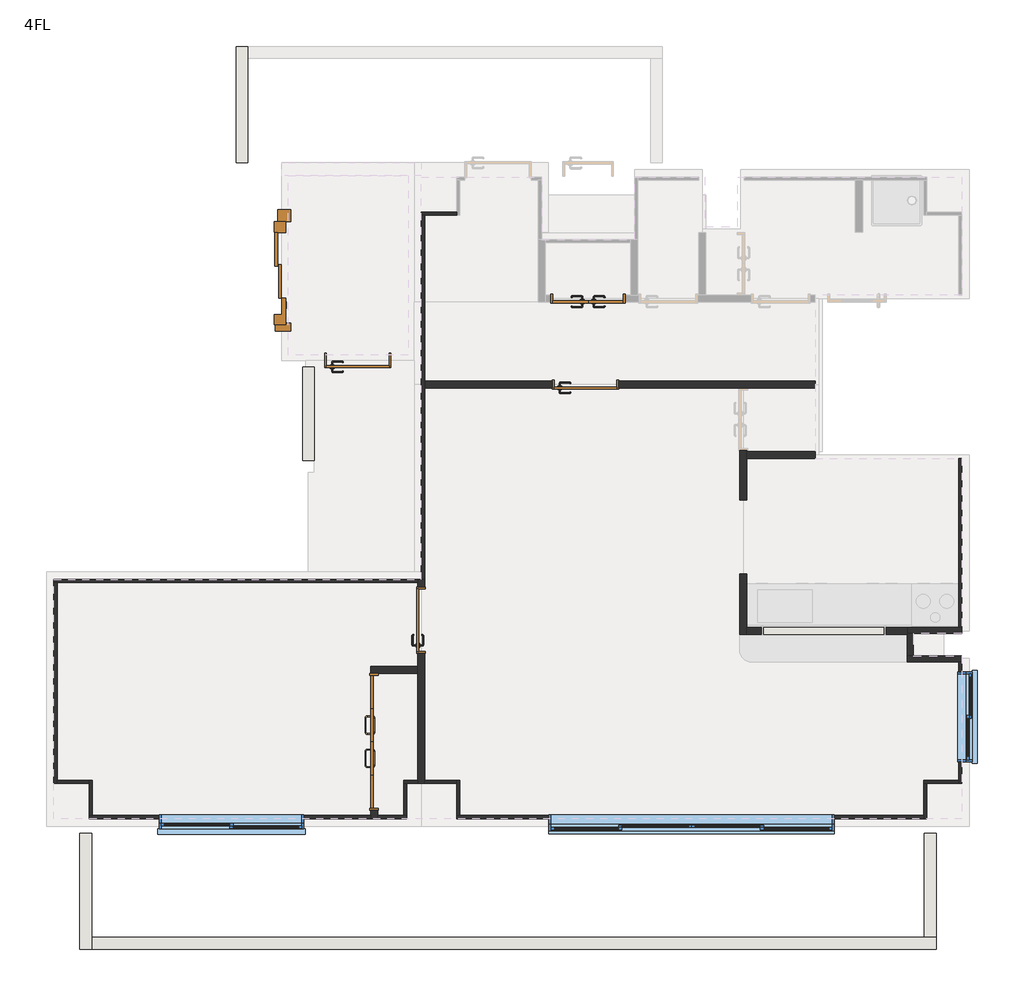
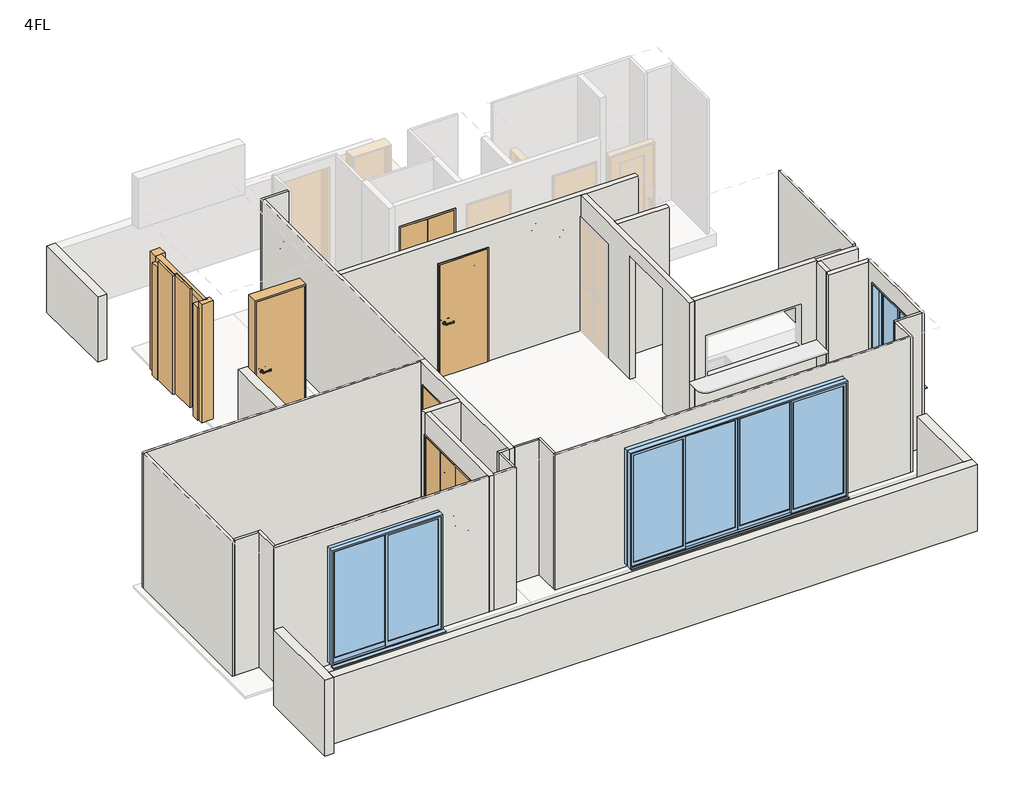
# One storey, part 1 of 2: 32 walls, 6 doors, 3 windows.
"""IFC4 building model written with IfcOpenShell, lengths in millimetres."""

from ifc_helpers import new_model, si_unit, frame, origin, place, context, project, spatial, polyline, outline, extrude, faceted_brep, transform, mapped, element, save
from components import door_6b3f1a68, w750h2000_bb28a540, w900h2000_3836acd8, w1700h2000_548ce087, w800h2000_55112f04, w800h2000_ceb0a9b1, w800h2200_4894828d, w1100h1200_8d7c9efa, w1800h2000_a859420f, w3600_h2000_fd93b6f9

model = new_model("IFC4")

# Units and contexts
model_context = context("Model", 3, world=origin())
ifc_project = project(units=[si_unit("LENGTHUNIT", "METRE", prefix="MILLI")], contexts=[model_context])

# Site, building, storey
site = spatial("IfcSite", under=ifc_project)
building = spatial("IfcBuilding", under=site)
storey = spatial("IfcBuildingStorey", under=building, Name="4FL", Elevation=9395.0)

# Doors
placement = place(None, origin())
door_shape = door_6b3f1a68(model_context)
element("IfcDoor", 1, ObjectType="エレベータ住宅用ドア - トランク付 : 9 人乗", at=placement, inside=storey, context=model_context, shape_type="MappedRepresentation", body=[
    mapped(door_shape, transform((-699.2658988, 2143.6001516, 9395.0), x_axis=(0.0, 1.0, 0.0), y_axis=(-1.0, 0.0, 0.0), z_axis=(0.0, 0.0, 1.0))),
])
w750h2000_shape = w750h2000_bb28a540(model_context)
w900h2000_shape = w900h2000_3836acd8(model_context)
element("IfcDoor", 2, ObjectType="両開き : W900H2000", at=placement, inside=storey, context=model_context, shape_type="MappedRepresentation", body=[
    mapped(w750h2000_shape, transform((3218.2341012, 1823.6001516, 9395.0), x_axis=(-1.0, 0.0, 0.0), y_axis=(0.0, -1.0, 0.0), z_axis=(0.0, 0.0, 1.0))),
    mapped(w900h2000_shape, transform((3218.2341012, 1823.6001516, 9395.0), x_axis=(-1.0, 0.0, 0.0), y_axis=(0.0, -1.0, 0.0), z_axis=(0.0, 0.0, 1.0))),
])
w1700h2000_shape = w1700h2000_548ce087(model_context)
element("IfcDoor", 3, ObjectType="木製折戸 : w1700h2000", at=placement, inside=storey, context=model_context, shape_type="MappedRepresentation", body=[
    mapped(w1700h2000_shape, transform((483.2341012, -3846.3998484, 9395.0), x_axis=(0.0, 1.0, 0.0), y_axis=(-1.0, 0.0, 0.0), z_axis=(0.0, 0.0, 1.0))),
])
w800h2000_shape = w800h2000_55112f04(model_context)
element("IfcDoor", 4, ObjectType="片開き : w800h2000", at=placement, inside=storey, context=model_context, shape_type="MappedRepresentation", body=[
    mapped(w800h2000_shape, transform((3183.2341012, 723.6001516, 9395.0), x_axis=(1.0, 0.0, 0.0), y_axis=(0.0, 1.0, 0.0), z_axis=(0.0, 0.0, 1.0))),
])
w800h2000_2_shape = w800h2000_ceb0a9b1(model_context)
element("IfcDoor", 5, ObjectType="片開き : w800h2000", at=placement, inside=storey, context=model_context, shape_type="MappedRepresentation", body=[
    mapped(w800h2000_2_shape, transform((1083.2341012, -2291.3998484, 9395.0), x_axis=(0.0, 1.0, 0.0), y_axis=(-1.0, 0.0, 0.0), z_axis=(0.0, 0.0, 1.0))),
])
w800h2200_shape = w800h2200_4894828d(model_context)
element("IfcDoor", 6, ObjectType="片開き : w800h2200", at=placement, inside=storey, context=model_context, shape_type="MappedRepresentation", body=[
    mapped(w800h2200_shape, transform((273.2341012, 1031.1001516, 9395.0), x_axis=(1.0, 0.0, 0.0), y_axis=(0.0, 1.0, 0.0), z_axis=(0.0, 0.0, 1.0))),
])

# Walls
element("IfcWall", 7, ObjectType="標準-120mm+15mm+15mm", at=placement, inside=storey, context=model_context, shape_type="Brep", body=[
    faceted_brep([(-1281.7658988, 3563.6001516, 10495.0), (-1281.7658988, 5048.6001516, 10495.0), (-1281.7658988, 5048.6001516, 9315.0), (-1281.7658988, 3563.6001516, 9345.0), (-1131.7658988, 5048.6001516, 10495.0), (-1131.7658988, 4898.6001516, 10495.0), (-1131.7658988, 3563.6001516, 10495.0), (-1131.7658988, 3563.6001516, 9345.0), (-1131.7658988, 4898.6001516, 9318.030303), (-1131.7658988, 5048.6001516, 9315.0)], [[[0, 1, 2, 3]], [[4, 5, 6, 7, 8, 9]], [[1, 0, 6, 5, 4]], [[1, 4, 9, 2]], [[6, 0, 3, 7]], [[3, 2, 9, 8, 7]]]),
])
element("IfcWall", 8, ObjectType="標準-120mm+15mm+15mm", at=placement, inside=storey, context=model_context, shape_type="Brep", body=[
    faceted_brep([(-3281.7658988, -5016.3998484, 10495.0), (-3281.7658988, -5016.3998484, 9150.0), (-3281.7658988, -6501.3998484, 9150.0), (-3281.7658988, -6501.3998484, 10495.0), (-3131.7658988, -5016.3998484, 9150.0), (-3131.7658988, -5016.3998484, 10495.0), (-3131.7658988, -6351.3998484, 10495.0), (-3131.7658988, -6501.3998484, 10495.0), (-3131.7658988, -6501.3998484, 9315.0), (-3131.7658988, -6501.3998484, 9150.0)], [[[0, 1, 2, 3]], [[4, 5, 6, 7, 8, 9]], [[2, 1, 4, 9]], [[0, 3, 7, 6, 5]], [[3, 2, 9, 8, 7]], [[0, 5, 4, 1]]]),
])
element("IfcWall", 9, ObjectType="標準-120mm+15mm+15mm", at=placement, inside=storey, context=model_context, shape_type="Brep", body=[
    faceted_brep([(7668.2341012, -6501.3998484, 10495.0), (-3131.7658988, -6501.3998484, 10495.0), (-3131.7658988, -6501.3998484, 9315.0), (7668.2341012, -6501.3998484, 9315.0), (-3131.7658988, -6351.3998484, 10495.0), (7518.2341012, -6351.3998484, 10495.0), (7668.2341012, -6351.3998484, 10495.0), (7668.2341012, -6351.3998484, 9318.030303), (-3131.7658988, -6351.3998484, 9318.030303)], [[[0, 1, 2, 3]], [[4, 5, 6, 7, 8]], [[1, 0, 6, 5, 4]], [[1, 4, 8, 2]], [[6, 0, 3, 7]], [[3, 2, 8, 7]]]),
])
element("IfcWall", 10, ObjectType="標準-120mm+15mm+15mm", at=placement, inside=storey, context=model_context, shape_type="SweptSolid", body=[
    extrude(outline(polyline([(-6351.3998484, 10495.0), (-5016.3998484, 10495.0), (-5016.3998484, 9345.0), (-6351.3998484, 9318.030303), (-6351.3998484, 10495.0)])), frame((7518.2341012, 0.0, 0.0), z_axis=(1.0, 0.0, 0.0), x_axis=(0.0, 1.0, 0.0)), (0.0, 0.0, 1.0), 150.0),
])
element("IfcWall", 11, ObjectType="標準-150mm", at=placement, inside=storey, context=model_context, shape_type="SweptSolid", body=[
    extrude(outline(polyline([(-281.7658988, 948.6001516), (-281.7658988, -251.3998484), (-431.7658988, -251.3998484), (-431.7658988, 948.6001516), (-281.7658988, 948.6001516)])), frame((0.0, 0.0, 9395.0), z_axis=(0.0, 0.0, 1.0), x_axis=(1.0, 0.0, 0.0)), (0.0, 0.0, 1.0), 1100.0),
])
element("IfcWall", 12, ObjectType="標準\u300065ｍｍ+12.5mm", at=placement, inside=storey, context=model_context, shape_type="Brep", body=[
    faceted_brep([(7998.2341012, -2748.8998484, 9360.0), (7375.7341012, -2748.8998484, 9360.0), (7298.2341012, -2748.8998484, 9360.0), (7298.2341012, -2748.8998484, 11760.0), (7375.7341012, -2748.8998484, 11760.0), (7998.2341012, -2748.8998484, 11760.0), (7998.2341012, -2826.3998484, 9360.0), (7998.2341012, -2826.3998484, 9395.0), (7998.2341012, -2826.3998484, 11760.0), (7298.2341012, -2826.3998484, 11760.0), (7298.2341012, -2826.3998484, 9360.0)], [[[0, 1, 2, 3, 4, 5]], [[6, 7, 8, 9, 10]], [[2, 1, 0, 6, 10]], [[5, 4, 3, 9, 8]], [[0, 5, 8, 7, 6]], [[3, 2, 10, 9]]]),
])
element("IfcWall", 13, ObjectType="標準\u300065ｍｍ+12.5mm", at=placement, inside=storey, context=model_context, shape_type="SweptSolid", body=[
    extrude(outline(polyline([(7375.7341012, -2458.8998484), (7375.7341012, -2748.8998484), (7298.2341012, -2748.8998484), (7298.2341012, -2458.8998484), (7375.7341012, -2458.8998484)])), frame((0.0, 0.0, 9360.0), z_axis=(0.0, 0.0, 1.0), x_axis=(1.0, 0.0, 0.0)), (0.0, 0.0, 1.0), 2400.0),
])
element("IfcWall", 14, ObjectType="標準-12.5mm+65ｍｍ+12.5mm", at=placement, inside=storey, context=model_context, shape_type="Brep", body=[
    faceted_brep([(5248.2341012, -2471.3998484, 9395.0), (7298.2341012, -2471.3998484, 9395.0), (7298.2341012, -2471.3998484, 11795.0), (5248.2341012, -2471.3998484, 11795.0), (7033.2341012, -2471.3998484, 11120.0), (7033.2341012, -2471.3998484, 10395.0), (5433.2341012, -2471.3998484, 10395.0), (5433.2341012, -2471.3998484, 11120.0), (5248.2341012, -2381.3998484, 9395.0), (5248.2341012, -2381.3998484, 11795.0), (7298.2341012, -2381.3998484, 11795.0), (7298.2341012, -2381.3998484, 11760.0), (7298.2341012, -2381.3998484, 9395.0), (7033.2341012, -2381.3998484, 11120.0), (5433.2341012, -2381.3998484, 11120.0), (5433.2341012, -2381.3998484, 10395.0), (7033.2341012, -2381.3998484, 10395.0)], [[[0, 1, 2, 3], [4, 5, 6, 7]], [[8, 9, 10, 11, 12], [13, 14, 15, 16]], [[1, 0, 8, 12]], [[3, 2, 10, 9]], [[0, 3, 9, 8]], [[2, 1, 12, 11, 10]], [[5, 4, 13, 16]], [[6, 5, 16, 15]], [[7, 6, 15, 14]], [[4, 7, 14, 13]]]),
])
element("IfcWall", 15, ObjectType="標準-12.5mm+65ｍｍ+12.5mm", at=placement, inside=storey, context=model_context, shape_type="Brep", body=[
    faceted_brep([(1128.2341012, -1771.3998484, 9395.0), (1128.2341012, -1771.3998484, 11795.0), (1128.2341012, -4341.3998484, 11795.0), (1128.2341012, -4381.3998484, 11795.0), (1128.2341012, -4381.3998484, 9395.0), (1128.2341012, -4341.3998484, 9395.0), (1128.2341012, -2716.3998484, 9395.0), (1128.2341012, -2716.3998484, 11420.0), (1128.2341012, -1866.3998484, 11420.0), (1128.2341012, -1866.3998484, 9395.0), (1038.2341012, -1771.3998484, 11795.0), (1038.2341012, -1771.3998484, 9395.0), (1038.2341012, -1811.3998484, 9395.0), (1038.2341012, -1866.3998484, 9395.0), (1038.2341012, -1866.3998484, 11420.0), (1038.2341012, -2716.3998484, 11420.0), (1038.2341012, -2716.3998484, 9395.0), (1038.2341012, -2881.3998484, 9395.0), (1038.2341012, -2971.3998484, 9395.0), (1038.2341012, -4341.3998484, 9395.0), (1038.2341012, -4381.3998484, 9395.0), (1038.2341012, -4381.3998484, 11795.0), (1038.2341012, -4341.3998484, 11795.0), (1038.2341012, -2971.3998484, 11795.0), (1038.2341012, -2881.3998484, 11795.0), (1038.2341012, -1811.3998484, 11795.0), (1088.2341012, -1771.3998484, 9395.0), (1115.7341012, -1771.3998484, 9395.0), (1088.2341012, -1771.3998484, 11795.0)], [[[0, 1, 2, 3, 4, 5, 6, 7, 8, 9]], [[10, 11, 12, 13, 14, 15, 16, 17, 18, 19, 20, 21, 22, 23, 24, 25]], [[4, 20, 19, 18, 17, 16, 6, 5]], [[11, 26, 27, 0, 9, 13, 12]], [[1, 0, 27, 26, 11, 10, 28]], [[3, 2, 1, 28, 10, 25, 24, 23, 22, 21]], [[4, 3, 21, 20]], [[15, 7, 6, 16]], [[7, 15, 14, 8]], [[8, 14, 13, 9]]]),
])
element("IfcWall", 16, ObjectType="標準-12.5mm+65ｍｍ+12.5mm", at=placement, inside=storey, context=model_context, shape_type="Brep", body=[
    faceted_brep([(1038.2341012, -2881.3998484, 9395.0), (438.2341012, -2881.3998484, 9395.0), (438.2341012, -2881.3998484, 11795.0), (1038.2341012, -2881.3998484, 11795.0), (1038.2341012, -2971.3998484, 9395.0), (1038.2341012, -2971.3998484, 11795.0), (528.2341012, -2971.3998484, 11795.0), (438.2341012, -2971.3998484, 11795.0), (438.2341012, -2971.3998484, 11420.0), (438.2341012, -2971.3998484, 9395.0)], [[[0, 1, 2, 3]], [[4, 5, 6, 7, 8, 9]], [[1, 0, 4, 9]], [[3, 2, 7, 6, 5]], [[0, 3, 5, 4]], [[2, 1, 9, 8, 7]]]),
])
element("IfcWall", 17, ObjectType="標準-12.5mm+65ｍｍ+12.5mm", at=placement, inside=storey, context=model_context, shape_type="Brep", body=[
    faceted_brep([(438.2341012, -4831.3998484, 9395.0), (438.2341012, -4831.3998484, 11795.0), (438.2341012, -4791.3998484, 11795.0), (438.2341012, -2971.3998484, 11795.0), (438.2341012, -2971.3998484, 11420.0), (438.2341012, -4721.3998484, 11420.0), (438.2341012, -4721.3998484, 9395.0), (438.2341012, -4791.3998484, 9395.0), (528.2341012, -4831.3998484, 11795.0), (528.2341012, -4831.3998484, 9395.0), (528.2341012, -4791.3998484, 9395.0), (528.2341012, -4721.3998484, 9395.0), (528.2341012, -4721.3998484, 11420.0), (528.2341012, -2971.3998484, 11420.0), (528.2341012, -2971.3998484, 11795.0), (528.2341012, -4791.3998484, 11795.0)], [[[0, 1, 2, 3, 4, 5, 6, 7]], [[8, 9, 10, 11, 12, 13, 14, 15]], [[9, 0, 7, 6, 11, 10]], [[1, 0, 9, 8]], [[3, 2, 1, 8, 15, 14]], [[3, 14, 13, 4]], [[5, 12, 11, 6]], [[12, 5, 4, 13]]]),
])
element("IfcWall", 18, ObjectType="標準-12.5mm+65ｍｍ+12.5mm", at=placement, inside=storey, context=model_context, shape_type="Brep", body=[
    faceted_brep([(5248.2341012, -221.3998484, 9395.0), (6123.2341012, -221.3998484, 9395.0), (6123.2341012, -221.3998484, 11795.0), (5248.2341012, -221.3998484, 11795.0), (5248.2341012, -131.3998484, 9395.0), (5248.2341012, -131.3998484, 11795.0), (6123.2341012, -131.3998484, 11795.0), (6123.2341012, -131.3998484, 9395.0), (6123.2341012, -176.3998484, 9395.0)], [[[0, 1, 2, 3]], [[4, 5, 6, 7]], [[1, 0, 4, 7, 8]], [[3, 2, 6, 5]], [[0, 3, 5, 4]], [[2, 1, 8, 7, 6]]]),
])
element("IfcWall", 19, ObjectType="標準-12.5mm+65ｍｍ+12.5mm", at=placement, inside=storey, context=model_context, shape_type="Brep", body=[
    faceted_brep([(6123.2341012, 768.6001516, 11795.0), (6123.2341012, 768.6001516, 9395.0), (3608.2341012, 768.6001516, 9395.0), (3608.2341012, 768.6001516, 11420.0), (2758.2341012, 768.6001516, 11420.0), (2758.2341012, 768.6001516, 9395.0), (1128.2341012, 768.6001516, 9395.0), (1128.2341012, 768.6001516, 11795.0), (6123.2341012, 678.6001516, 9395.0), (6123.2341012, 678.6001516, 11795.0), (5248.2341012, 678.6001516, 11795.0), (5158.2341012, 678.6001516, 11795.0), (1128.2341012, 678.6001516, 11795.0), (1128.2341012, 678.6001516, 9395.0), (2758.2341012, 678.6001516, 9395.0), (2758.2341012, 678.6001516, 11420.0), (3608.2341012, 678.6001516, 11420.0), (3608.2341012, 678.6001516, 9395.0), (6123.2341012, 723.6001516, 9395.0)], [[[0, 1, 2, 3, 4, 5, 6, 7]], [[8, 9, 10, 11, 12, 13, 14, 15, 16, 17]], [[1, 18, 8, 17, 2]], [[5, 14, 13, 6]], [[9, 0, 7, 12, 11, 10]], [[1, 0, 9, 8, 18]], [[7, 6, 13, 12]], [[16, 3, 2, 17]], [[4, 15, 14, 5]], [[3, 16, 15, 4]]]),
])
element("IfcWall", 20, ObjectType="標準-12.5mm+65ｍｍ+12.5mm", at=placement, inside=storey, context=model_context, shape_type="Brep", body=[
    faceted_brep([(5158.2341012, -2471.3998484, 11795.0), (5158.2341012, 678.6001516, 11795.0), (5158.2341012, 678.6001516, 11420.0), (5158.2341012, -121.3998484, 11420.0), (5158.2341012, -121.3998484, 9395.0), (5158.2341012, -751.3998484, 9395.0), (5158.2341012, -751.3998484, 11585.0), (5158.2341012, -1701.3998484, 11585.0), (5158.2341012, -1701.3998484, 9395.0), (5158.2341012, -2471.3998484, 9395.0), (5248.2341012, 678.6001516, 11795.0), (5248.2341012, -131.3998484, 11795.0), (5248.2341012, -221.3998484, 11795.0), (5248.2341012, -2381.3998484, 11795.0), (5248.2341012, -2471.3998484, 11795.0), (5248.2341012, -2471.3998484, 9395.0), (5248.2341012, -2381.3998484, 9395.0), (5248.2341012, -1701.3998484, 9395.0), (5248.2341012, -1701.3998484, 11585.0), (5248.2341012, -751.3998484, 11585.0), (5248.2341012, -751.3998484, 9395.0), (5248.2341012, -221.3998484, 9395.0), (5248.2341012, -131.3998484, 9395.0), (5248.2341012, -121.3998484, 9395.0), (5248.2341012, -121.3998484, 11420.0), (5248.2341012, 678.6001516, 11420.0)], [[[0, 1, 2, 3, 4, 5, 6, 7, 8, 9]], [[10, 11, 12, 13, 14, 15, 16, 17, 18, 19, 20, 21, 22, 23, 24, 25]], [[15, 9, 8, 17, 16]], [[4, 23, 22, 21, 20, 5]], [[1, 0, 14, 13, 12, 11, 10]], [[0, 9, 15, 14]], [[1, 10, 25, 2]], [[3, 24, 23, 4]], [[24, 3, 2, 25]], [[7, 18, 17, 8]], [[19, 6, 5, 20]], [[18, 7, 6, 19]]]),
])
element("IfcWall", 21, ObjectType="標準\u300065ｍｍ+12.5mm", at=placement, inside=storey, context=model_context, shape_type="Brep", body=[
    faceted_brep([(7298.2341012, -2458.8998484, 11760.0), (7298.2341012, -2458.8998484, 9360.0), (7375.7341012, -2458.8998484, 9360.0), (7998.2341012, -2458.8998484, 9360.0), (7998.2341012, -2458.8998484, 11760.0), (7375.7341012, -2458.8998484, 11760.0), (7298.2341012, -2381.3998484, 9360.0), (7298.2341012, -2381.3998484, 9395.0), (7298.2341012, -2381.3998484, 11760.0), (7998.2341012, -2381.3998484, 11760.0), (7998.2341012, -2381.3998484, 9395.0), (7998.2341012, -2381.3998484, 9360.0)], [[[0, 1, 2, 3, 4, 5]], [[6, 7, 8, 9, 10, 11]], [[3, 2, 1, 6, 11]], [[4, 3, 11, 10, 9]], [[0, 5, 4, 9, 8]], [[0, 8, 7, 6, 1]]]),
])
element("IfcWall", 22, ObjectType="内壁-27.5mm+12.5", at=placement, inside=storey, context=model_context, shape_type="Brep", body=[
    faceted_brep([(-3611.7658988, -1811.3998484, 9395.0), (-3571.7658988, -1811.3998484, 9395.0), (1038.2341012, -1811.3998484, 9395.0), (1038.2341012, -1811.3998484, 11795.0), (-3571.7658988, -1811.3998484, 11795.0), (-3611.7658988, -1811.3998484, 11795.0), (-3611.7658988, -1771.3998484, 9395.0), (-3611.7658988, -1771.3998484, 11795.0), (1038.2341012, -1771.3998484, 11795.0), (1038.2341012, -1771.3998484, 9395.0), (-3611.7658988, -1798.8998484, 9395.0), (1038.2341012, -1798.8998484, 9395.0)], [[[0, 1, 2, 3, 4, 5]], [[6, 7, 8, 9]], [[5, 4, 3, 8, 7]], [[2, 1, 0, 10, 11]], [[3, 2, 11, 9, 8]], [[0, 5, 7, 6, 10]], [[10, 6, 9, 11]]]),
])
element("IfcWall", 23, ObjectType="内壁-27.5mm+12.5", at=placement, inside=storey, context=model_context, shape_type="Brep", body=[
    faceted_brep([(-3571.7658988, -4381.3998484, 9395.0), (-3571.7658988, -4341.3998484, 9395.0), (-3571.7658988, -1811.3998484, 9395.0), (-3571.7658988, -1811.3998484, 11795.0), (-3571.7658988, -4341.3998484, 11795.0), (-3571.7658988, -4381.3998484, 11795.0), (-3611.7658988, -4381.3998484, 9395.0), (-3611.7658988, -4381.3998484, 11795.0), (-3611.7658988, -1811.3998484, 11795.0), (-3611.7658988, -1811.3998484, 9395.0), (-3584.2658988, -4381.3998484, 9395.0), (-3584.2658988, -1811.3998484, 9395.0)], [[[0, 1, 2, 3, 4, 5]], [[6, 7, 8, 9]], [[5, 4, 3, 8, 7]], [[2, 1, 0, 10, 11]], [[3, 2, 11, 9, 8]], [[0, 5, 7, 6, 10]], [[10, 6, 9, 11]]]),
])
element("IfcWall", 24, ObjectType="内壁-27.5mm+12.5", at=placement, inside=storey, context=model_context, shape_type="Brep", body=[
    faceted_brep([(438.2341012, -4791.3998484, 9395.0), (-3121.7658988, -4791.3998484, 9395.0), (-3161.7658988, -4791.3998484, 9395.0), (-3161.7658988, -4791.3998484, 11795.0), (-3121.7658988, -4791.3998484, 11795.0), (438.2341012, -4791.3998484, 11795.0), (-2266.7658988, -4791.3998484, 11505.0), (-2266.7658988, -4791.3998484, 9455.0), (-416.7658988, -4791.3998484, 9455.0), (-416.7658988, -4791.3998484, 11505.0), (438.2341012, -4831.3998484, 9395.0), (438.2341012, -4831.3998484, 11795.0), (-3161.7658988, -4831.3998484, 11795.0), (-3161.7658988, -4831.3998484, 9395.0), (-2266.7658988, -4831.3998484, 11505.0), (-416.7658988, -4831.3998484, 11505.0), (-416.7658988, -4831.3998484, 9455.0), (-2266.7658988, -4831.3998484, 9455.0), (438.2341012, -4803.8998484, 9395.0), (-3161.7658988, -4803.8998484, 9395.0)], [[[0, 1, 2, 3, 4, 5], [6, 7, 8, 9]], [[10, 11, 12, 13], [14, 15, 16, 17]], [[5, 4, 3, 12, 11]], [[2, 1, 0, 18, 19]], [[0, 5, 11, 10, 18]], [[18, 10, 13, 19]], [[7, 6, 14, 17]], [[8, 7, 17, 16]], [[9, 8, 16, 15]], [[6, 9, 15, 14]], [[3, 2, 19, 13, 12]]]),
])
element("IfcWall", 25, ObjectType="内壁-27.5mm+12.5", at=placement, inside=storey, context=model_context, shape_type="Brep", body=[
    faceted_brep([(898.2341012, -4791.3998484, 9395.0), (858.2341012, -4791.3998484, 9395.0), (528.2341012, -4791.3998484, 9395.0), (528.2341012, -4791.3998484, 11795.0), (858.2341012, -4791.3998484, 11795.0), (898.2341012, -4791.3998484, 11795.0), (898.2341012, -4831.3998484, 9395.0), (898.2341012, -4831.3998484, 11795.0), (528.2341012, -4831.3998484, 11795.0), (528.2341012, -4831.3998484, 9395.0), (898.2341012, -4803.8998484, 9395.0), (528.2341012, -4803.8998484, 9395.0)], [[[0, 1, 2, 3, 4, 5]], [[6, 7, 8, 9]], [[5, 4, 3, 8, 7]], [[2, 1, 0, 10, 11]], [[3, 2, 11, 9, 8]], [[0, 5, 7, 6, 10]], [[10, 6, 9, 11]]]),
])
element("IfcWall", 26, ObjectType="内壁-27.5mm+12.5", at=placement, inside=storey, context=model_context, shape_type="Brep", body=[
    faceted_brep([(1038.2341012, -4341.3998484, 9395.0), (858.2341012, -4341.3998484, 9395.0), (858.2341012, -4341.3998484, 11795.0), (1038.2341012, -4341.3998484, 11795.0), (1038.2341012, -4381.3998484, 9395.0), (1038.2341012, -4381.3998484, 11795.0), (898.2341012, -4381.3998484, 11795.0), (858.2341012, -4381.3998484, 11795.0), (858.2341012, -4381.3998484, 9395.0), (898.2341012, -4381.3998484, 9395.0), (1038.2341012, -4353.8998484, 9395.0), (858.2341012, -4353.8998484, 9395.0)], [[[0, 1, 2, 3]], [[4, 5, 6, 7, 8, 9]], [[3, 2, 7, 6, 5]], [[1, 0, 10, 11]], [[0, 3, 5, 4, 10]], [[10, 4, 9, 8, 11]], [[2, 1, 11, 8, 7]]]),
])
element("IfcWall", 27, ObjectType="内壁-27.5mm+12.5", at=placement, inside=storey, context=model_context, shape_type="SweptSolid", body=[
    extrude(outline(polyline([(11795.0, 858.2341012), (9395.0, 858.2341012), (9395.0, 870.7341012), (9395.0, 898.2341012), (11795.0, 898.2341012), (11795.0, 858.2341012)])), frame((0.0, -4791.3998484, 0.0), z_axis=(0.0, 1.0, 0.0), x_axis=(0.0, 0.0, 1.0)), (0.0, 0.0, 1.0), 410.0),
])
element("IfcWall", 28, ObjectType="内壁-27.5mm+12.5", at=placement, inside=storey, context=model_context, shape_type="Brep", body=[
    faceted_brep([(1088.2341012, 2888.6001516, 9395.0), (1128.2341012, 2888.6001516, 9395.0), (1538.2341012, 2888.6001516, 9395.0), (1538.2341012, 2888.6001516, 11795.0), (1128.2341012, 2888.6001516, 11795.0), (1088.2341012, 2888.6001516, 11795.0), (1088.2341012, 2928.6001516, 9395.0), (1088.2341012, 2928.6001516, 11795.0), (1538.2341012, 2928.6001516, 11795.0), (1538.2341012, 2928.6001516, 9395.0), (1088.2341012, 2901.1001516, 9395.0), (1538.2341012, 2901.1001516, 9395.0)], [[[0, 1, 2, 3, 4, 5]], [[6, 7, 8, 9]], [[5, 4, 3, 8, 7]], [[2, 1, 0, 10, 11]], [[3, 2, 11, 9, 8]], [[0, 5, 7, 6, 10]], [[10, 6, 9, 11]]]),
])
element("IfcWall", 29, ObjectType="内壁-27.5mm+12.5", at=placement, inside=storey, context=model_context, shape_type="Brep", body=[
    faceted_brep([(1128.2341012, -1771.3998484, 9395.0), (1128.2341012, 678.6001516, 9395.0), (1128.2341012, 768.6001516, 9395.0), (1128.2341012, 2888.6001516, 9395.0), (1128.2341012, 2888.6001516, 11795.0), (1128.2341012, 768.6001516, 11795.0), (1128.2341012, 678.6001516, 11795.0), (1128.2341012, -1771.3998484, 11795.0), (1088.2341012, -1771.3998484, 9395.0), (1088.2341012, -1771.3998484, 11795.0), (1088.2341012, 2888.6001516, 11795.0), (1088.2341012, 2888.6001516, 9395.0), (1115.7341012, -1771.3998484, 9395.0), (1115.7341012, 2888.6001516, 9395.0)], [[[0, 1, 2, 3, 4, 5, 6, 7]], [[8, 9, 10, 11]], [[7, 6, 5, 4, 10, 9]], [[0, 7, 9, 8, 12]], [[3, 2, 1, 0, 12, 13]], [[12, 8, 11, 13]], [[4, 3, 13, 11, 10]]]),
])
element("IfcWall", 30, ObjectType="内壁-27.5mm+12.5", at=placement, inside=storey, context=model_context, shape_type="Brep", body=[
    faceted_brep([(7958.2341012, -221.3998484, 9395.0), (7958.2341012, -2381.3998484, 9395.0), (7958.2341012, -2381.3998484, 11795.0), (7958.2341012, -221.3998484, 11795.0), (7998.2341012, -221.3998484, 9395.0), (7998.2341012, -221.3998484, 11795.0), (7998.2341012, -2381.3998484, 11795.0), (7998.2341012, -2381.3998484, 11760.0), (7998.2341012, -2381.3998484, 9395.0), (7970.7341012, -221.3998484, 9395.0), (7970.7341012, -2381.3998484, 9395.0)], [[[0, 1, 2, 3]], [[4, 5, 6, 7, 8]], [[3, 2, 6, 5]], [[1, 0, 9, 10]], [[2, 1, 10, 8, 7, 6]], [[0, 3, 5, 4, 9]], [[9, 4, 8, 10]]]),
])
element("IfcWall", 31, ObjectType="内壁-27.5mm+12.5", at=placement, inside=storey, context=model_context, shape_type="Brep", body=[
    faceted_brep([(7958.2341012, -2826.3998484, 9395.0), (7958.2341012, -4341.3998484, 9395.0), (7958.2341012, -4381.3998484, 9395.0), (7958.2341012, -4381.3998484, 11795.0), (7958.2341012, -4341.3998484, 11795.0), (7958.2341012, -2826.3998484, 11795.0), (7958.2341012, -4101.3998484, 11470.0), (7958.2341012, -4101.3998484, 10220.0), (7958.2341012, -2951.3998484, 10220.0), (7958.2341012, -2951.3998484, 11470.0), (7998.2341012, -2826.3998484, 9395.0), (7998.2341012, -2826.3998484, 11760.0), (7998.2341012, -2826.3998484, 11795.0), (7998.2341012, -4381.3998484, 11795.0), (7998.2341012, -4381.3998484, 9395.0), (7998.2341012, -4101.3998484, 11470.0), (7998.2341012, -2951.3998484, 11470.0), (7998.2341012, -2951.3998484, 10220.0), (7998.2341012, -4101.3998484, 10220.0), (7970.7341012, -2826.3998484, 9395.0), (7970.7341012, -4381.3998484, 9395.0)], [[[0, 1, 2, 3, 4, 5], [6, 7, 8, 9]], [[10, 11, 12, 13, 14], [15, 16, 17, 18]], [[5, 4, 3, 13, 12]], [[2, 1, 0, 19, 20]], [[0, 5, 12, 11, 10, 19]], [[19, 10, 14, 20]], [[3, 2, 20, 14, 13]], [[7, 6, 15, 18]], [[8, 7, 18, 17]], [[9, 8, 17, 16]], [[6, 9, 16, 15]]]),
])
element("IfcWall", 32, ObjectType="内壁-27.5mm+12.5", at=placement, inside=storey, context=model_context, shape_type="Brep", body=[
    faceted_brep([(7958.2341012, -4341.3998484, 9395.0), (7508.2341012, -4341.3998484, 9395.0), (7508.2341012, -4341.3998484, 11795.0), (7958.2341012, -4341.3998484, 11795.0), (7958.2341012, -4381.3998484, 9395.0), (7958.2341012, -4381.3998484, 11795.0), (7548.2341012, -4381.3998484, 11795.0), (7508.2341012, -4381.3998484, 11795.0), (7508.2341012, -4381.3998484, 9395.0), (7548.2341012, -4381.3998484, 9395.0), (7958.2341012, -4353.8998484, 9395.0), (7508.2341012, -4353.8998484, 9395.0)], [[[0, 1, 2, 3]], [[4, 5, 6, 7, 8, 9]], [[3, 2, 7, 6, 5]], [[1, 0, 10, 11]], [[0, 3, 5, 4, 10]], [[10, 4, 9, 8, 11]], [[2, 1, 11, 8, 7]]]),
])
element("IfcWall", 33, ObjectType="内壁-27.5mm+12.5", at=placement, inside=storey, context=model_context, shape_type="Brep", body=[
    faceted_brep([(7508.2341012, -4381.3998484, 9395.0), (7508.2341012, -4791.3998484, 9395.0), (7508.2341012, -4831.3998484, 9395.0), (7508.2341012, -4831.3998484, 11795.0), (7508.2341012, -4791.3998484, 11795.0), (7508.2341012, -4381.3998484, 11795.0), (7548.2341012, -4381.3998484, 9395.0), (7548.2341012, -4381.3998484, 11795.0), (7548.2341012, -4831.3998484, 11795.0), (7548.2341012, -4831.3998484, 9395.0), (7520.7341012, -4381.3998484, 9395.0), (7520.7341012, -4831.3998484, 9395.0)], [[[0, 1, 2, 3, 4, 5]], [[6, 7, 8, 9]], [[5, 4, 3, 8, 7]], [[2, 1, 0, 10, 11]], [[0, 5, 7, 6, 10]], [[10, 6, 9, 11]], [[3, 2, 11, 9, 8]]]),
])
element("IfcWall", 34, ObjectType="内壁-27.5mm+12.5", at=placement, inside=storey, context=model_context, shape_type="Brep", body=[
    faceted_brep([(7508.2341012, -4791.3998484, 9395.0), (1578.2341012, -4791.3998484, 9395.0), (1538.2341012, -4791.3998484, 9395.0), (1538.2341012, -4791.3998484, 11795.0), (1578.2341012, -4791.3998484, 11795.0), (7508.2341012, -4791.3998484, 11795.0), (6368.2341012, -4791.3998484, 9455.0), (6368.2341012, -4791.3998484, 11505.0), (2718.2341012, -4791.3998484, 11505.0), (2718.2341012, -4791.3998484, 9455.0), (7508.2341012, -4831.3998484, 9395.0), (7508.2341012, -4831.3998484, 11795.0), (1538.2341012, -4831.3998484, 11795.0), (1538.2341012, -4831.3998484, 9395.0), (6368.2341012, -4831.3998484, 9455.0), (2718.2341012, -4831.3998484, 9455.0), (2718.2341012, -4831.3998484, 11505.0), (6368.2341012, -4831.3998484, 11505.0), (7508.2341012, -4803.8998484, 9395.0), (1538.2341012, -4803.8998484, 9395.0)], [[[0, 1, 2, 3, 4, 5], [6, 7, 8, 9]], [[10, 11, 12, 13], [14, 15, 16, 17]], [[5, 4, 3, 12, 11]], [[2, 1, 0, 18, 19]], [[0, 5, 11, 10, 18]], [[18, 10, 13, 19]], [[3, 2, 19, 13, 12]], [[7, 6, 14, 17]], [[8, 7, 17, 16]], [[9, 8, 16, 15]], [[6, 9, 15, 14]]]),
])
element("IfcWall", 35, ObjectType="内壁-27.5mm+12.5", at=placement, inside=storey, context=model_context, shape_type="Brep", body=[
    faceted_brep([(1578.2341012, -4791.3998484, 9395.0), (1578.2341012, -4341.3998484, 9395.0), (1578.2341012, -4341.3998484, 11795.0), (1578.2341012, -4791.3998484, 11795.0), (1538.2341012, -4791.3998484, 9395.0), (1538.2341012, -4791.3998484, 11795.0), (1538.2341012, -4381.3998484, 11795.0), (1538.2341012, -4341.3998484, 11795.0), (1538.2341012, -4341.3998484, 9395.0), (1538.2341012, -4381.3998484, 9395.0), (1565.7341012, -4791.3998484, 9395.0), (1565.7341012, -4341.3998484, 9395.0)], [[[0, 1, 2, 3]], [[4, 5, 6, 7, 8, 9]], [[3, 2, 7, 6, 5]], [[1, 0, 10, 11]], [[0, 3, 5, 4, 10]], [[10, 4, 9, 8, 11]], [[2, 1, 11, 8, 7]]]),
])
element("IfcWall", 36, ObjectType="内壁-27.5mm+12.5", at=placement, inside=storey, context=model_context, shape_type="SweptSolid", body=[
    extrude(outline(polyline([(-4341.3998484, 11795.0), (-4341.3998484, 9395.0), (-4353.8998484, 9395.0), (-4381.3998484, 9395.0), (-4381.3998484, 11795.0), (-4341.3998484, 11795.0)])), frame((1128.2341012, 0.0, 0.0), z_axis=(1.0, 0.0, 0.0), x_axis=(0.0, 1.0, 0.0)), (0.0, 0.0, 1.0), 410.0),
])
element("IfcWall", 37, ObjectType="内壁-27.5mm+12.5", at=placement, inside=storey, context=model_context, shape_type="Brep", body=[
    faceted_brep([(-3121.7658988, -4791.3998484, 9395.0), (-3121.7658988, -4341.3998484, 9395.0), (-3121.7658988, -4341.3998484, 11795.0), (-3121.7658988, -4791.3998484, 11795.0), (-3161.7658988, -4791.3998484, 9395.0), (-3161.7658988, -4791.3998484, 11795.0), (-3161.7658988, -4381.3998484, 11795.0), (-3161.7658988, -4341.3998484, 11795.0), (-3161.7658988, -4341.3998484, 9395.0), (-3161.7658988, -4381.3998484, 9395.0), (-3134.2658988, -4791.3998484, 9395.0), (-3134.2658988, -4341.3998484, 9395.0)], [[[0, 1, 2, 3]], [[4, 5, 6, 7, 8, 9]], [[3, 2, 7, 6, 5]], [[1, 0, 10, 11]], [[2, 1, 11, 8, 7]], [[0, 3, 5, 4, 10]], [[10, 4, 9, 8, 11]]]),
])
element("IfcWall", 38, ObjectType="内壁-27.5mm+12.5", at=placement, inside=storey, context=model_context, shape_type="SweptSolid", body=[
    extrude(outline(polyline([(-4341.3998484, 11795.0), (-4341.3998484, 9395.0), (-4353.8998484, 9395.0), (-4381.3998484, 9395.0), (-4381.3998484, 11795.0), (-4341.3998484, 11795.0)])), frame((-3571.7658988, 0.0, 0.0), z_axis=(1.0, 0.0, 0.0), x_axis=(0.0, 1.0, 0.0)), (0.0, 0.0, 1.0), 410.0),
])

# Windows
w1100h1200_shape = w1100h1200_8d7c9efa(model_context)
element("IfcWindow", 39, ObjectType="引違い腰窓_2枚 : W1100H1200", at=placement, inside=storey, context=model_context, shape_type="MappedRepresentation", body=[
    mapped(w1100h1200_shape, transform((8090.7341012, -3526.3998484, 9295.0), x_axis=(0.0, -1.0, 0.0), y_axis=(1.0, 0.0, 0.0), z_axis=(0.0, 0.0, 1.0))),
])
w1800h2000_shape = w1800h2000_a859420f(model_context)
element("IfcWindow", 40, ObjectType="引違い掃出窓_2枚 : W1800H2000", at=placement, inside=storey, context=model_context, shape_type="MappedRepresentation", body=[
    mapped(w1800h2000_shape, transform((-1341.7658988, -4923.8998484, 9480.0), x_axis=(-1.0, 0.0, 0.0), y_axis=(0.0, -1.0, 0.0), z_axis=(0.0, 0.0, 1.0))),
])
w3600_h2000_shape = w3600_h2000_fd93b6f9(model_context)
element("IfcWindow", 41, ObjectType="窓 - 引違い掃出 4 枚 2 溝 - 内付 : w3600 h2000", at=placement, inside=storey, context=model_context, shape_type="MappedRepresentation", body=[
    mapped(w3600_h2000_shape, transform((4543.2341012, -4923.8998484, 9455.0), x_axis=(-1.0, 0.0, 0.0), y_axis=(0.0, -1.0, 0.0), z_axis=(0.0, 0.0, 1.0))),
])

save(model, "model.ifc")
